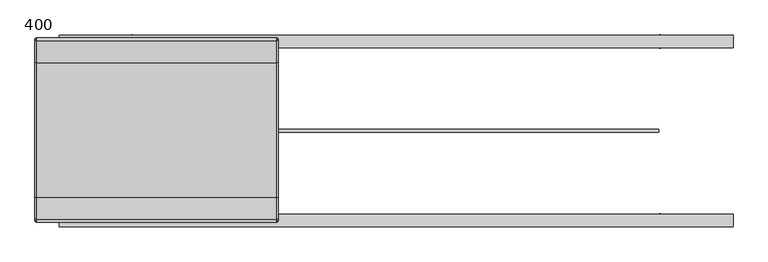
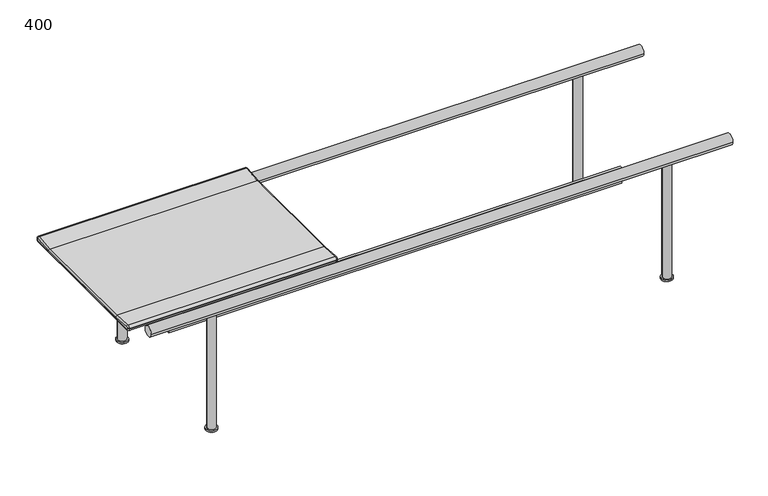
"""IFC4 building model written with IfcOpenShell, lengths in millimetres: furniture geometry, Vestre - Munch - 5106 : 400."""

from ifc_helpers import new_model, si_unit, point, frame, frame_2d, origin, origin_with_axes, place, context, project, spatial, polyline, circle_curve, ellipse_curve, trimmed, segment, composite_curve, outline, extrude, source, transform, mapped, element, save
from ifc_brep_helpers import plane_surface, cylinder_surface, revolved_surface, advanced_brep


def furniture_400_281b6f21(model_context):
    return source(origin(), model_context, "Body", "SolidModel", [
        advanced_brep(
        [(-315.5, 181.9050033, 423.2281613), (-315.5, -176.912469, 423.2281613), (-315.5, -235.6696536, 427.3368639), (-315.5, -238.3342698, 425.0638151), (-315.5, -238.5253765, 422.9090742), (-315.5, -236.2560129, 420.1979879), (-315.5, -235.4260063, 420.1243736), (-315.5, 240.4185407, 420.1243736), (-315.5, 241.2485472, 420.1979879), (-315.5, 243.5179109, 422.9090742), (-315.5, 243.3268041, 425.0638151), (-315.5, 240.662188, 427.3368639), (-965.1060612, -176.912469, 423.2281613), (-965.1060612, 181.9050033, 423.2281613), (-965.1060612, 240.662188, 427.3368639), (-965.1060612, 243.3268041, 425.0638151), (-965.1060612, 243.5179109, 422.9090742), (-965.1060612, 241.2485472, 420.1979879), (-965.1060612, 240.4185407, 420.1243736), (-965.1060612, -235.4260063, 420.1243736), (-965.1060612, -236.2560129, 420.1979879), (-965.1060612, -238.5253765, 422.9090742), (-965.1060612, -238.3342698, 425.0638151), (-965.1060612, -235.6696536, 427.3368639), (-960.1060612, 248.307254, 425.5055377), (-960.1060612, 240.3134056, 432.3246842), (-320.5, 240.3134056, 432.3246842), (-320.5, 248.307254, 425.5055377), (-960.1060612, 181.556221, 428.2159816), (-320.5, 181.556221, 428.2159816), (-960.1060612, -176.5636866, 428.2159816), (-320.5, -176.5636866, 428.2159816), (-960.1060612, -235.3208713, 432.3246842), (-320.5, -235.3208713, 432.3246842), (-960.1060612, -243.3147197, 425.5055377), (-320.5, -243.3147197, 425.5055377), (-960.1060612, -243.5058264, 423.3507968), (-320.5, -243.5058264, 423.3507968), (-960.1060612, -236.6977355, 415.217538), (-960.1060612, -235.8677289, 415.1439237), (-320.5, -235.8677289, 415.1439237), (-320.5, -236.6977355, 415.217538), (-960.1060612, 240.8602632, 415.1439237), (-320.5, 240.8602632, 415.1439237), (-960.1060612, 241.6902698, 415.217538), (-320.5, 241.6902698, 415.217538), (-960.1060612, 248.4983608, 423.3507968), (-320.5, 248.4983608, 423.3507968)],
        [
            (0, 1, circle_curve(frame((-315.5, 2.4962672, 2988.8926207), z_axis=(-1.0, 0.0, 0.0), x_axis=(0.0, -0.06975647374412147, -0.9975640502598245)), 2571.9295505)),
            (1, 2),
            (2, 3, circle_curve(frame((-315.5, -235.8440448, 424.8429538), z_axis=(1.0, 0.0, 0.0), x_axis=(0.0, -0.9960899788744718, 0.08834451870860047)), 2.5)),
            (3, 4),
            (4, 5, circle_curve(frame((-315.5, -236.0351516, 422.6882129), z_axis=(1.0, 0.0, 0.0), x_axis=(0.0, -0.08834451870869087, -0.9960899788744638)), 2.5)),
            (5, 6),
            (6, 7, circle_curve(frame((-315.5, 2.4962672, 3102.7129013), z_axis=(1.0, 0.0, 0.0), x_axis=(0.0, 0.08834451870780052, -0.9960899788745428)), 2693.1186787)),
            (7, 8),
            (8, 9, circle_curve(frame((-315.5, 241.0276859, 422.6882129), z_axis=(1.0, 0.0, 0.0), x_axis=(0.0, 0.996089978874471, 0.08834451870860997)), 2.5)),
            (9, 10),
            (10, 11, circle_curve(frame((-315.5, 240.8365791, 424.8429538), z_axis=(1.0, 0.0, 0.0), x_axis=(0.0, -0.06975647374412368, 0.9975640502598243)), 2.5)),
            (11, 0),
            (12, 13, circle_curve(frame((-965.1060612, 2.4962672, 2988.8926207), z_axis=(1.0, 0.0, 0.0), x_axis=(0.0, -0.06975647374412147, -0.9975640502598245)), 2571.9295505)),
            (13, 14),
            (14, 15, circle_curve(frame((-965.1060612, 240.8365791, 424.8429538), z_axis=(-1.0, 0.0, 0.0), x_axis=(0.0, -0.06975647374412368, 0.9975640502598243)), 2.5)),
            (15, 16),
            (16, 17, circle_curve(frame((-965.1060612, 241.0276859, 422.6882129), z_axis=(-1.0, 0.0, 0.0), x_axis=(0.0, 0.996089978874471, 0.08834451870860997)), 2.5)),
            (17, 18),
            (18, 19, circle_curve(frame((-965.1060612, 2.4962672, 3102.7129013), z_axis=(-1.0, 0.0, 0.0), x_axis=(0.0, 0.08834451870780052, -0.9960899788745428)), 2693.1186787)),
            (19, 20),
            (20, 21, circle_curve(frame((-965.1060612, -236.0351516, 422.6882129), z_axis=(-1.0, 0.0, 0.0), x_axis=(0.0, -0.08834451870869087, -0.9960899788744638)), 2.5)),
            (21, 22),
            (22, 23, circle_curve(frame((-965.1060612, -235.8440448, 424.8429538), z_axis=(-1.0, 0.0, 0.0), x_axis=(0.0, -0.9960899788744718, 0.08834451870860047)), 2.5)),
            (23, 12),
            (24, 25, circle_curve(frame((-960.1060612, 240.8365791, 424.8429538), z_axis=(1.0, 0.0, 0.0), x_axis=(0.0, -1.0, 0.0)), 7.5)),
            (25, 26),
            (26, 27, circle_curve(frame((-320.5, 240.8365791, 424.8429538), z_axis=(-1.0, 0.0, 0.0), x_axis=(0.0, -1.0, 0.0)), 7.5)),
            (27, 24),
            (25, 28),
            (28, 29),
            (29, 26),
            (28, 30, circle_curve(frame((-960.1060612, 2.4962672, 2988.8926207), z_axis=(-1.0, 0.0, 0.0), x_axis=(0.0, -1.0, 0.0)), 2566.9295505)),
            (30, 31),
            (31, 29, circle_curve(frame((-320.5, 2.4962672, 2988.8926207), z_axis=(1.0, 0.0, 0.0), x_axis=(0.0, -1.0, 0.0)), 2566.9295505)),
            (30, 32),
            (32, 33),
            (33, 31),
            (32, 34, circle_curve(frame((-960.1060612, -235.8440448, 424.8429538), z_axis=(1.0, 0.0, 0.0), x_axis=(0.0, -1.0, 0.0)), 7.5)),
            (34, 35),
            (35, 33, circle_curve(frame((-320.5, -235.8440448, 424.8429538), z_axis=(-1.0, 0.0, 0.0), x_axis=(0.0, -1.0, 0.0)), 7.5)),
            (34, 36),
            (36, 37),
            (37, 35),
            (38, 39),
            (39, 40),
            (40, 41),
            (41, 38),
            (39, 42, circle_curve(frame((-960.1060612, 2.4962672, 3102.7129013), z_axis=(1.0, 0.0, 0.0), x_axis=(0.0, -1.0, 0.0)), 2698.1186787)),
            (42, 43),
            (43, 40, circle_curve(frame((-320.5, 2.4962672, 3102.7129013), z_axis=(-1.0, 0.0, 0.0), x_axis=(0.0, -1.0, 0.0)), 2698.1186787)),
            (42, 44),
            (44, 45),
            (45, 43),
            (46, 24),
            (27, 47),
            (47, 46),
            (36, 38, circle_curve(frame((-960.1060612, -236.0351516, 422.6882129), z_axis=(1.0, 0.0, 0.0), x_axis=(0.0, -1.0, 0.0)), 7.5)),
            (41, 37, circle_curve(frame((-320.5, -236.0351516, 422.6882129), z_axis=(-1.0, 0.0, 0.0), x_axis=(0.0, -1.0, 0.0)), 7.5)),
            (44, 46, circle_curve(frame((-960.1060612, 241.0276859, 422.6882129), z_axis=(1.0, 0.0, 0.0), x_axis=(0.0, -1.0, 0.0)), 7.5)),
            (47, 45, circle_curve(frame((-320.5, 241.0276859, 422.6882129), z_axis=(-1.0, 0.0, 0.0), x_axis=(0.0, -1.0, 0.0)), 7.5)),
            (28, 13, circle_curve(frame((-960.1060612, 181.9050033, 423.2281613), z_axis=(0.0, -0.9975640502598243, -0.06975647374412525), x_axis=(1.0, 0.0, 0.0)), 5.0)),
            (12, 30, circle_curve(frame((-960.1060612, -176.912469, 423.2281613), z_axis=(0.0, 0.9975640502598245, -0.06975647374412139), x_axis=(1.0, 0.0, 0.0)), 5.0)),
            (25, 14, circle_curve(frame((-960.1060612, 240.662188, 427.3368639), z_axis=(0.0, -0.9975640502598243, -0.06975647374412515), x_axis=(1.0, 0.0, 0.0)), 5.0)),
            (24, 15, circle_curve(frame((-960.1060612, 243.3268041, 425.0638151), z_axis=(0.0, -0.08834451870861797, 0.9960899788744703), x_axis=(1.0, 0.0, 0.0)), 5.0)),
            (46, 16, circle_curve(frame((-960.1060612, 243.5179109, 422.9090742), z_axis=(0.0, -0.08834451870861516, 0.9960899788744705), x_axis=(1.0, 0.0, 0.0)), 5.0)),
            (44, 17, circle_curve(frame((-960.1060612, 241.2485472, 420.1979879), z_axis=(0.0, 0.9960899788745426, 0.08834451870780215), x_axis=(1.0, 0.0, 0.0)), 5.0)),
            (42, 18, circle_curve(frame((-960.1060612, 240.4185407, 420.1243736), z_axis=(0.0, 0.9960899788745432, 0.08834451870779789), x_axis=(1.0, 0.0, 0.0)), 5.0)),
            (39, 19, circle_curve(frame((-960.1060612, -235.4260063, 420.1243736), z_axis=(0.0, 0.996089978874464, -0.08834451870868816), x_axis=(1.0, 0.0, 0.0)), 5.0)),
            (38, 20, circle_curve(frame((-960.1060612, -236.2560129, 420.1979879), z_axis=(0.0, 0.9960899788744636, -0.08834451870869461), x_axis=(1.0, 0.0, 0.0)), 5.0)),
            (36, 21, circle_curve(frame((-960.1060612, -238.5253765, 422.9090742), z_axis=(0.0, -0.08834451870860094, -0.9960899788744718), x_axis=(1.0, 0.0, 0.0)), 5.0)),
            (34, 22, circle_curve(frame((-960.1060612, -238.3342698, 425.0638151), z_axis=(0.0, -0.08834451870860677, -0.9960899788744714), x_axis=(1.0, 0.0, 0.0)), 5.0)),
            (32, 23, circle_curve(frame((-960.1060612, -235.6696536, 427.3368639), z_axis=(0.0, -0.9975640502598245, 0.0697564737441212), x_axis=(1.0, 0.0, 0.0)), 5.0)),
            (0, 29, circle_curve(frame((-320.5, 181.9050033, 423.2281613), z_axis=(0.0, -0.9975640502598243, -0.06975647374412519), x_axis=(-1.0, 0.0, 0.0)), 5.0)),
            (31, 1, circle_curve(frame((-320.5, -176.912469, 423.2281613), z_axis=(0.0, 0.9975640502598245, -0.06975647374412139), x_axis=(-1.0, 0.0, 0.0)), 5.0)),
            (11, 26, circle_curve(frame((-320.5, 240.662188, 427.3368639), z_axis=(0.0, -0.9975640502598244, -0.06975647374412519), x_axis=(-1.0, 0.0, 0.0)), 5.0)),
            (10, 27, circle_curve(frame((-320.5, 243.3268041, 425.0638151), z_axis=(0.0, -0.08834451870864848, 0.9960899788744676), x_axis=(-1.0, 0.0, 0.0)), 5.0)),
            (9, 47, circle_curve(frame((-320.5, 243.5179109, 422.9090742), z_axis=(0.0, -0.08834451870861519, 0.9960899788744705), x_axis=(-1.0, 0.0, 0.0)), 5.0)),
            (8, 45, circle_curve(frame((-320.5, 241.2485472, 420.1979879), z_axis=(0.0, 0.996089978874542, 0.08834451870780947), x_axis=(-1.0, 0.0, 0.0)), 5.0)),
            (7, 43, circle_curve(frame((-320.5, 240.4185407, 420.1243736), z_axis=(0.0, 0.9960899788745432, 0.08834451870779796), x_axis=(-1.0, 0.0, 0.0)), 5.0)),
            (6, 40, circle_curve(frame((-320.5, -235.4260063, 420.1243736), z_axis=(0.0, 0.996089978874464, -0.08834451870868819), x_axis=(-1.0, 0.0, 0.0)), 5.0)),
            (5, 41, circle_curve(frame((-320.5, -236.2560129, 420.1979879), z_axis=(0.0, 0.9960899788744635, -0.08834451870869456), x_axis=(-1.0, 0.0, 0.0)), 5.0)),
            (4, 37, circle_curve(frame((-320.5, -238.5253765, 422.9090742), z_axis=(0.0, -0.08834451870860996, -0.996089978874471), x_axis=(-1.0, 0.0, 0.0)), 5.0)),
            (3, 35, circle_curve(frame((-320.5, -238.3342698, 425.0638151), z_axis=(0.0, -0.08834451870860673, -0.9960899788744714), x_axis=(-1.0, 0.0, 0.0)), 5.0)),
            (2, 33, circle_curve(frame((-320.5, -235.6696536, 427.3368639), z_axis=(0.0, -0.9975640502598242, 0.06975647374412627), x_axis=(-1.0, 0.0, 0.0)), 5.0)),
        ],
        [
            plane_surface(frame((-315.5, 233.3365791, 424.8429538), z_axis=(1.0, 0.0, 0.0), x_axis=(0.0, 0.0, -1.0))),
            plane_surface(frame((-965.1060612, 233.3365791, 424.8429538), z_axis=(-1.0, 0.0, 0.0), x_axis=(0.0, 0.0, 1.0))),
            cylinder_surface(frame((-965.1060612, 240.8365791, 424.8429538), z_axis=(1.0, 0.0, 0.0), x_axis=(0.0, -1.0, 0.0)), 7.5),
            plane_surface(frame((-315.5, 240.3134056, 432.3246842), z_axis=(0.0, -0.06975647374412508, 0.9975640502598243), x_axis=(-1.0, 0.0, 0.0))),
            revolved_surface(polyline([(-960.1060612, -2564.4332833, 2988.8926207), (-320.5, -2564.4332833, 2988.8926207)]), (-965.1060612, 2.4962672, 2988.8926207), (-1.0, 0.0, 0.0)),
            plane_surface(frame((-315.5, -176.5636866, 428.2159816), z_axis=(0.0, 0.06975647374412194, 0.9975640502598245), x_axis=(-1.0, 0.0, 0.0))),
            cylinder_surface(frame((-965.1060612, -235.8440448, 424.8429538), z_axis=(1.0, 0.0, 0.0), x_axis=(0.0, -1.0, 0.0)), 7.5),
            plane_surface(frame((-315.5, -243.3147197, 425.5055377), z_axis=(0.0, -0.9960899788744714, 0.08834451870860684), x_axis=(-1.0, 0.0, 0.0))),
            plane_surface(frame((-315.5, -236.6977355, 415.217538), z_axis=(0.0, -0.08834451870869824, -0.9960899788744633), x_axis=(-1.0, 0.0, 0.0))),
            cylinder_surface(frame((-965.1060612, 2.4962672, 3102.7129013), z_axis=(1.0, 0.0, 0.0), x_axis=(0.0, -1.0, 0.0)), 2698.1186787),
            plane_surface(frame((-315.5, 240.8602632, 415.1439237), z_axis=(0.0, 0.08834451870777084, -0.9960899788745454), x_axis=(-1.0, 0.0, 0.0))),
            plane_surface(frame((-315.5, 248.4983608, 423.3507968), z_axis=(0.0, 0.9960899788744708, 0.08834451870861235), x_axis=(-1.0, 0.0, 0.0))),
            cylinder_surface(frame((-965.1060612, -236.0351516, 422.6882129), z_axis=(1.0, 0.0, 0.0), x_axis=(0.0, -1.0, 0.0)), 7.5),
            cylinder_surface(frame((-965.1060612, 241.0276859, 422.6882129), z_axis=(1.0, 0.0, 0.0), x_axis=(0.0, -1.0, 0.0)), 7.5),
            revolved_surface(trimmed(ellipse_curve(frame((-960.1060612, -176.912469, 423.2281613), z_axis=(0.0, -0.9975640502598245, 0.06975647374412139), x_axis=(1.0, 0.0, 0.0)), 5.0, 5.0), [point((-960.1060612, -176.5636866, 428.2159816))], [point((-965.1060612, -176.912469, 423.2281613))], True, "CARTESIAN"), (-965.1060612, 2.4962672, 2988.8926207), (1.0, 0.0, 0.0)),
            cylinder_surface(frame((-960.1060612, 181.9050033, 423.2281613), z_axis=(0.0, 0.9975640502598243, 0.06975647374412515), x_axis=(1.0, 0.0, 0.0)), 5.0),
            revolved_surface(trimmed(ellipse_curve(frame((-960.1060612, 240.662188, 427.3368639), z_axis=(0.0, -0.9975640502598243, -0.06975647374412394), x_axis=(1.0, 0.0, 0.0)), 5.0, 5.0), [point((-960.1060612, 240.3134056, 432.3246842))], [point((-965.1060612, 240.662188, 427.3368639))], True, "CARTESIAN"), (-965.1060612, 240.8365791, 424.8429538), (-1.0, 0.0, 0.0)),
            cylinder_surface(frame((-960.1060612, 243.3268041, 425.0638151), z_axis=(0.0, 0.08834451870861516, -0.9960899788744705), x_axis=(1.0, 0.0, 0.0)), 5.0),
            revolved_surface(trimmed(ellipse_curve(frame((-960.1060612, 243.5179109, 422.9090742), z_axis=(0.0, -0.08834451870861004, 0.996089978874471), x_axis=(1.0, 0.0, 0.0)), 5.0, 5.0), [point((-960.1060612, 248.4983608, 423.3507968))], [point((-965.1060612, 243.5179109, 422.9090742))], True, "CARTESIAN"), (-965.1060612, 241.0276859, 422.6882129), (-1.0, 0.0, 0.0)),
            cylinder_surface(frame((-960.1060612, 241.2485472, 420.1979879), z_axis=(0.0, -0.9960899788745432, -0.08834451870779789), x_axis=(1.0, 0.0, 0.0)), 5.0),
            revolved_surface(trimmed(ellipse_curve(frame((-960.1060612, 240.4185407, 420.1243736), z_axis=(0.0, 0.9960899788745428, 0.08834451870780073), x_axis=(1.0, 0.0, 0.0)), 5.0, 5.0), [point((-960.1060612, 240.8602632, 415.1439237))], [point((-965.1060612, 240.4185407, 420.1243736))], True, "CARTESIAN"), (-965.1060612, 2.4962672, 3102.7129013), (-1.0, 0.0, 0.0)),
            cylinder_surface(frame((-960.1060612, -235.4260063, 420.1243736), z_axis=(0.0, -0.9960899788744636, 0.08834451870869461), x_axis=(1.0, 0.0, 0.0)), 5.0),
            revolved_surface(trimmed(ellipse_curve(frame((-960.1060612, -236.2560129, 420.1979879), z_axis=(0.0, 0.9960899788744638, -0.0883445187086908), x_axis=(1.0, 0.0, 0.0)), 5.0, 5.0), [point((-960.1060612, -236.6977355, 415.217538))], [point((-965.1060612, -236.2560129, 420.1979879))], True, "CARTESIAN"), (-965.1060612, -236.0351516, 422.6882129), (-1.0, 0.0, 0.0)),
            cylinder_surface(frame((-960.1060612, -238.5253765, 422.9090742), z_axis=(0.0, 0.08834451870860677, 0.9960899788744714), x_axis=(1.0, 0.0, 0.0)), 5.0),
            revolved_surface(trimmed(ellipse_curve(frame((-960.1060612, -238.3342698, 425.0638151), z_axis=(0.0, -0.08834451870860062, -0.9960899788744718), x_axis=(1.0, 0.0, 0.0)), 5.0, 5.0), [point((-960.1060612, -243.3147197, 425.5055377))], [point((-965.1060612, -238.3342698, 425.0638151))], True, "CARTESIAN"), (-965.1060612, -235.8440448, 424.8429538), (-1.0, 0.0, 0.0)),
            cylinder_surface(frame((-960.1060612, -235.6696536, 427.3368639), z_axis=(0.0, 0.9975640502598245, -0.06975647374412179), x_axis=(1.0, 0.0, 0.0)), 5.0),
            revolved_surface(trimmed(ellipse_curve(frame((-320.5, -176.912469, 423.2281613), z_axis=(0.0, -0.9975640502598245, 0.06975647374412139), x_axis=(-1.0, 0.0, 0.0)), 5.0, 5.0), [point((-315.5, -176.912469, 423.2281613))], [point((-320.5, -176.5636866, 428.2159816))], True, "CARTESIAN"), (-315.5, 2.4962672, 2988.8926207), (1.0, 0.0, 0.0)),
            cylinder_surface(frame((-320.5, 181.9050033, 423.2281613), z_axis=(0.0, 0.9975640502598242, 0.06975647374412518), x_axis=(-1.0, 0.0, 0.0)), 5.0),
            revolved_surface(trimmed(ellipse_curve(frame((-320.5, 240.662188, 427.3368639), z_axis=(0.0, -0.9975640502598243, -0.06975647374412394), x_axis=(-1.0, 0.0, 0.0)), 5.0, 5.0), [point((-315.5, 240.662188, 427.3368639))], [point((-320.5, 240.3134056, 432.3246842))], True, "CARTESIAN"), (-315.5, 240.8365791, 424.8429538), (-1.0, 0.0, 0.0)),
            cylinder_surface(frame((-320.5, 243.3268041, 425.0638151), z_axis=(0.0, 0.08834451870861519, -0.9960899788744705), x_axis=(-1.0, 0.0, 0.0)), 5.0),
            revolved_surface(trimmed(ellipse_curve(frame((-320.5, 243.5179109, 422.9090742), z_axis=(0.0, -0.08834451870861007, 0.996089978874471), x_axis=(-1.0, 0.0, 0.0)), 5.0, 5.0), [point((-315.5, 243.5179109, 422.9090742))], [point((-320.5, 248.4983608, 423.3507968))], True, "CARTESIAN"), (-315.5, 241.0276859, 422.6882129), (-1.0, 0.0, 0.0)),
            cylinder_surface(frame((-320.5, 241.2485472, 420.1979879), z_axis=(0.0, -0.996089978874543, -0.08834451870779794), x_axis=(-1.0, 0.0, 0.0)), 5.0),
            revolved_surface(trimmed(ellipse_curve(frame((-320.5, 240.4185407, 420.1243736), z_axis=(0.0, 0.9960899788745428, 0.08834451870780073), x_axis=(-1.0, 0.0, 0.0)), 5.0, 5.0), [point((-315.5, 240.4185407, 420.1243736))], [point((-320.5, 240.8602632, 415.1439237))], True, "CARTESIAN"), (-315.5, 2.4962672, 3102.7129013), (-1.0, 0.0, 0.0)),
            cylinder_surface(frame((-320.5, -235.4260063, 420.1243736), z_axis=(0.0, -0.9960899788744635, 0.08834451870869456), x_axis=(-1.0, 0.0, 0.0)), 5.0),
            revolved_surface(trimmed(ellipse_curve(frame((-320.5, -236.2560129, 420.1979879), z_axis=(0.0, 0.9960899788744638, -0.08834451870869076), x_axis=(-1.0, 0.0, 0.0)), 5.0, 5.0), [point((-315.5, -236.2560129, 420.1979879))], [point((-320.5, -236.6977355, 415.217538))], True, "CARTESIAN"), (-315.5, -236.0351516, 422.6882129), (-1.0, 0.0, 0.0)),
            cylinder_surface(frame((-320.5, -238.5253765, 422.9090742), z_axis=(0.0, 0.08834451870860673, 0.9960899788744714), x_axis=(-1.0, 0.0, 0.0)), 5.0),
            revolved_surface(trimmed(ellipse_curve(frame((-320.5, -238.3342698, 425.0638151), z_axis=(0.0, -0.08834451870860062, -0.9960899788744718), x_axis=(-1.0, 0.0, 0.0)), 5.0, 5.0), [point((-315.5, -238.3342698, 425.0638151))], [point((-320.5, -243.3147197, 425.5055377))], True, "CARTESIAN"), (-315.5, -235.8440448, 424.8429538), (-1.0, 0.0, 0.0)),
            cylinder_surface(frame((-320.5, -235.6696536, 427.3368639), z_axis=(0.0, 0.9975640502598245, -0.06975647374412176), x_axis=(-1.0, 0.0, 0.0)), 5.0),
        ],
        [
            (0, [[1, 2, 3, 4, 5, 6, 7, 8, 9, 10, 11, 12]]),
            (1, [[13, 14, 15, 16, 17, 18, 19, 20, 21, 22, 23, 24]]),
            (2, [[25, 26, 27, 28]]),
            (3, [[29, 30, 31, -26]]),
            (4, [[32, 33, 34, -30]]),
            (5, [[35, 36, 37, -33]]),
            (6, [[38, 39, 40, -36]]),
            (7, [[41, 42, 43, -39]]),
            (8, [[44, 45, 46, 47]]),
            (9, [[48, 49, 50, -45]]),
            (10, [[51, 52, 53, -49]]),
            (11, [[54, -28, 55, 56]]),
            (12, [[57, -47, 58, -42]]),
            (13, [[59, -56, 60, -52]]),
            (14, [[61, -13, 62, -32]]),
            (15, [[-61, -29, 63, -14]]),
            (16, [[-63, -25, 64, -15]]),
            (17, [[-64, -54, 65, -16]]),
            (18, [[-65, -59, 66, -17]]),
            (19, [[-66, -51, 67, -18]]),
            (20, [[-67, -48, 68, -19]]),
            (21, [[-68, -44, 69, -20]]),
            (22, [[-69, -57, 70, -21]]),
            (23, [[-70, -41, 71, -22]]),
            (24, [[-71, -38, 72, -23]]),
            (25, [[-62, -24, -72, -35]]),
            (26, [[73, -34, 74, -1]]),
            (27, [[-73, -12, 75, -31]]),
            (28, [[-75, -11, 76, -27]]),
            (29, [[-76, -10, 77, -55]]),
            (30, [[-77, -9, 78, -60]]),
            (31, [[-78, -8, 79, -53]]),
            (32, [[-79, -7, 80, -50]]),
            (33, [[-80, -6, 81, -46]]),
            (34, [[-81, -5, 82, -58]]),
            (35, [[-82, -4, 83, -43]]),
            (36, [[-83, -3, 84, -40]]),
            (37, [[-74, -37, -84, -2]]),
        ],
    ),
        extrude(outline(composite_curve([segment(trimmed(circle_curve(frame_2d((704.9999552, 238.988073)), 13.0), [point((717.9999552, 238.988073))], [point((691.9999552, 238.988073))], False, "CARTESIAN"), True, "CONTINUOUS"), segment(trimmed(circle_curve(frame_2d((704.9999552, 238.988073)), 13.0), [point((691.9999552, 238.988073))], [point((717.9999552, 238.988073))], False, "CARTESIAN"), True, "CONTINUOUS")], self_intersect=False)), frame((0.0, 0.0, 10.0), z_axis=(0.0, 0.0, 1.0), x_axis=(1.0, 0.0, 0.0)), (0.0, 0.0, 1.0), 375.0),
        extrude(outline(composite_curve([segment(trimmed(circle_curve(frame_2d((704.9999552, -239.011927)), 13.0), [point((717.9999552, -239.011927))], [point((691.9999552, -239.011927))], False, "CARTESIAN"), True, "CONTINUOUS"), segment(trimmed(circle_curve(frame_2d((704.9999552, -239.011927)), 13.0), [point((691.9999552, -239.011927))], [point((717.9999552, -239.011927))], False, "CARTESIAN"), True, "CONTINUOUS")], self_intersect=False)), frame((0.0, 0.0, 10.0), z_axis=(0.0, 0.0, 1.0), x_axis=(1.0, 0.0, 0.0)), (0.0, 0.0, 1.0), 376.6636493),
        extrude(outline(composite_curve([segment(trimmed(circle_curve(frame_2d((238.988073, 392.15)), 16.85), [point((255.838073, 392.15))], [point((222.138073, 392.15))], False, "CARTESIAN"), True, "CONTINUOUS"), segment(trimmed(circle_curve(frame_2d((238.988073, 392.15)), 16.85), [point((222.138073, 392.15))], [point((255.838073, 392.15))], False, "CARTESIAN"), True, "CONTINUOUS")], self_intersect=False)), frame((-899.9999552, 0.0, 0.0), z_axis=(1.0, 0.0, 0.0), x_axis=(0.0, 1.0, 0.0)), (0.0, 0.0, 1.0), 1800.0),
        extrude(outline(composite_curve([segment(trimmed(circle_curve(frame_2d((-239.011927, 392.15)), 16.85), [point((-222.161927, 392.15))], [point((-255.861927, 392.15))], False, "CARTESIAN"), True, "CONTINUOUS"), segment(trimmed(circle_curve(frame_2d((-239.011927, 392.15)), 16.85), [point((-255.861927, 392.15))], [point((-222.161927, 392.15))], False, "CARTESIAN"), True, "CONTINUOUS")], self_intersect=False)), frame((-899.9999552, 0.0, 0.0), z_axis=(1.0, 0.0, 0.0), x_axis=(0.0, 1.0, 0.0)), (0.0, 0.0, 1.0), 1800.0),
        extrude(outline(polyline([(701.0251424, 3.913073), (701.0251424, -3.936927), (-701.0250529, -3.936927), (-701.0250529, 3.913073), (701.0251424, 3.913073)])), frame((0.0, 0.0, 175.0), z_axis=(0.0, 0.0, 1.0), x_axis=(1.0, 0.0, 0.0)), (0.0, 0.0, 1.0), 50.0),
        extrude(outline(composite_curve([segment(trimmed(circle_curve(frame_2d((705.0000448, 238.988073)), 10.0), [point((715.0000448, 238.988073))], [point((695.0000448, 238.988073))], False, "CARTESIAN"), True, "CONTINUOUS"), segment(trimmed(circle_curve(frame_2d((705.0000448, 238.988073)), 10.0), [point((695.0000448, 238.988073))], [point((715.0000448, 238.988073))], False, "CARTESIAN"), True, "CONTINUOUS")], self_intersect=False)), origin_with_axes(), (0.0, 0.0, 1.0), 5.0095249),
        extrude(outline(composite_curve([segment(trimmed(circle_curve(frame_2d((705.0000448, 238.988073)), 17.5), [point((722.5000448, 238.988073))], [point((687.5000448, 238.988073))], False, "CARTESIAN"), True, "CONTINUOUS"), segment(trimmed(circle_curve(frame_2d((705.0000448, 238.988073)), 17.5), [point((687.5000448, 238.988073))], [point((722.5000448, 238.988073))], False, "CARTESIAN"), True, "CONTINUOUS")], self_intersect=False)), frame((0.0, 0.0, 5.0095249), z_axis=(0.0, 0.0, 1.0), x_axis=(1.0, 0.0, 0.0)), (0.0, 0.0, 1.0), 4.9904751),
        extrude(outline(composite_curve([segment(trimmed(circle_curve(frame_2d((-704.9999552, 238.988073)), 10.0), [point((-714.9999552, 238.988073))], [point((-694.9999552, 238.988073))], False, "CARTESIAN"), True, "CONTINUOUS"), segment(trimmed(circle_curve(frame_2d((-704.9999552, 238.988073)), 10.0), [point((-694.9999552, 238.988073))], [point((-714.9999552, 238.988073))], False, "CARTESIAN"), True, "CONTINUOUS")], self_intersect=False)), origin_with_axes(), (0.0, 0.0, 1.0), 5.0095249),
        extrude(outline(composite_curve([segment(trimmed(circle_curve(frame_2d((-704.9999552, 238.988073)), 17.5), [point((-722.4999552, 238.988073))], [point((-687.4999552, 238.988073))], False, "CARTESIAN"), True, "CONTINUOUS"), segment(trimmed(circle_curve(frame_2d((-704.9999552, 238.988073)), 17.5), [point((-687.4999552, 238.988073))], [point((-722.4999552, 238.988073))], False, "CARTESIAN"), True, "CONTINUOUS")], self_intersect=False)), frame((0.0, 0.0, 5.0095249), z_axis=(0.0, 0.0, 1.0), x_axis=(1.0, 0.0, 0.0)), (0.0, 0.0, 1.0), 4.9904751),
        extrude(outline(composite_curve([segment(trimmed(circle_curve(frame_2d((-704.9999552, 238.988073)), 13.0), [point((-717.9999552, 238.988073))], [point((-691.9999552, 238.988073))], False, "CARTESIAN"), True, "CONTINUOUS"), segment(trimmed(circle_curve(frame_2d((-704.9999552, 238.988073)), 13.0), [point((-691.9999552, 238.988073))], [point((-717.9999552, 238.988073))], False, "CARTESIAN"), True, "CONTINUOUS")], self_intersect=False)), frame((0.0, 0.0, 10.0), z_axis=(0.0, 0.0, 1.0), x_axis=(1.0, 0.0, 0.0)), (0.0, 0.0, 1.0), 375.0),
        extrude(outline(composite_curve([segment(trimmed(circle_curve(frame_2d((705.0000448, -239.011927)), 10.0), [point((715.0000448, -239.011927))], [point((695.0000448, -239.011927))], False, "CARTESIAN"), True, "CONTINUOUS"), segment(trimmed(circle_curve(frame_2d((705.0000448, -239.011927)), 10.0), [point((695.0000448, -239.011927))], [point((715.0000448, -239.011927))], False, "CARTESIAN"), True, "CONTINUOUS")], self_intersect=False)), origin_with_axes(), (0.0, 0.0, 1.0), 5.0095249),
        extrude(outline(composite_curve([segment(trimmed(circle_curve(frame_2d((705.0000448, -239.011927)), 17.5), [point((722.5000448, -239.011927))], [point((687.5000448, -239.011927))], False, "CARTESIAN"), True, "CONTINUOUS"), segment(trimmed(circle_curve(frame_2d((705.0000448, -239.011927)), 17.5), [point((687.5000448, -239.011927))], [point((722.5000448, -239.011927))], False, "CARTESIAN"), True, "CONTINUOUS")], self_intersect=False)), frame((0.0, 0.0, 5.0095249), z_axis=(0.0, 0.0, 1.0), x_axis=(1.0, 0.0, 0.0)), (0.0, 0.0, 1.0), 4.9904751),
        extrude(outline(composite_curve([segment(trimmed(circle_curve(frame_2d((-704.9999552, -239.011927)), 10.0), [point((-714.9999552, -239.011927))], [point((-694.9999552, -239.011927))], False, "CARTESIAN"), True, "CONTINUOUS"), segment(trimmed(circle_curve(frame_2d((-704.9999552, -239.011927)), 10.0), [point((-694.9999552, -239.011927))], [point((-714.9999552, -239.011927))], False, "CARTESIAN"), True, "CONTINUOUS")], self_intersect=False)), origin_with_axes(), (0.0, 0.0, 1.0), 5.0095249),
        extrude(outline(composite_curve([segment(trimmed(circle_curve(frame_2d((-704.9999552, -239.011927)), 17.5), [point((-722.4999552, -239.011927))], [point((-687.4999552, -239.011927))], False, "CARTESIAN"), True, "CONTINUOUS"), segment(trimmed(circle_curve(frame_2d((-704.9999552, -239.011927)), 17.5), [point((-687.4999552, -239.011927))], [point((-722.4999552, -239.011927))], False, "CARTESIAN"), True, "CONTINUOUS")], self_intersect=False)), frame((0.0, 0.0, 5.0095249), z_axis=(0.0, 0.0, 1.0), x_axis=(1.0, 0.0, 0.0)), (0.0, 0.0, 1.0), 4.9904751),
        extrude(outline(composite_curve([segment(trimmed(circle_curve(frame_2d((-704.9999552, -239.011927)), 13.0), [point((-717.9999552, -239.011927))], [point((-691.9999552, -239.011927))], False, "CARTESIAN"), True, "CONTINUOUS"), segment(trimmed(circle_curve(frame_2d((-704.9999552, -239.011927)), 13.0), [point((-691.9999552, -239.011927))], [point((-717.9999552, -239.011927))], False, "CARTESIAN"), True, "CONTINUOUS")], self_intersect=False)), frame((0.0, 0.0, 10.0), z_axis=(0.0, 0.0, 1.0), x_axis=(1.0, 0.0, 0.0)), (0.0, 0.0, 1.0), 376.6636493),
    ])


if __name__ == "__main__":
    model = new_model("IFC4")
    model_context = context("Model", 3, world=origin())
    ifc_project = project(units=[si_unit("LENGTHUNIT", "METRE", prefix="MILLI")], contexts=[model_context])
    site = spatial("IfcSite", under=ifc_project)
    building = spatial("IfcBuilding", under=site)
    placement = place(None, origin())
    furniture_400_shape = furniture_400_281b6f21(model_context)
    element("IfcFurniture", 1, ObjectType="Vestre - Munch - 5106 : 400", at=placement, inside=building, context=model_context, shape_type="MappedRepresentation", body=[
        mapped(furniture_400_shape, transform((0.0, 0.0, 0.0), x_axis=(1.0, 0.0, 0.0), y_axis=(0.0, 1.0, 0.0), z_axis=(0.0, 0.0, 1.0))),
    ])
    save(model, "model.ifc")
